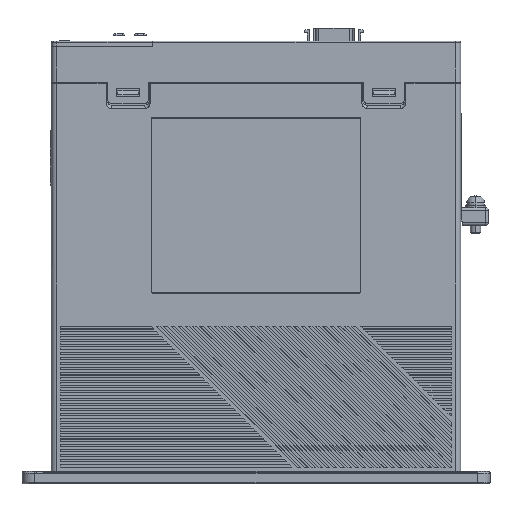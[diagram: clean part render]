
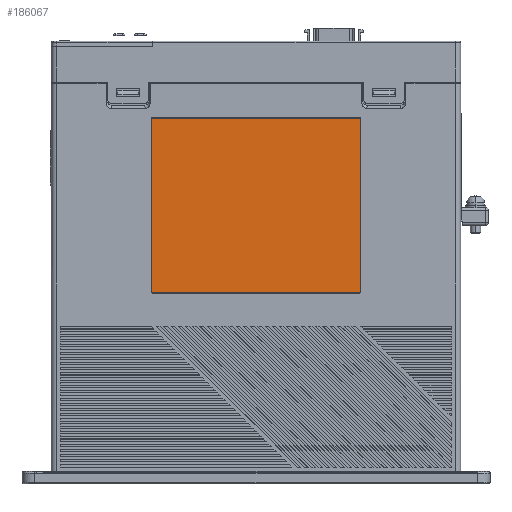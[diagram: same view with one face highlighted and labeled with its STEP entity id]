
A CAD part, top view. The second image highlights one B-rep face of the part: STEP entity #186067.
In plain terms, the highlighted planar face has unit normal (0, 0, 1).
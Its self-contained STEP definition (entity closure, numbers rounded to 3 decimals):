
#175955=CARTESIAN_POINT('',(-40.5,75.1,24.65));
#175956=DIRECTION('',(0.,0.,-1.));
#175957=DIRECTION('',(0.,-1.,0.));
#175958=AXIS2_PLACEMENT_3D('',#175955,#175956,#175957);
#175960=DIRECTION('',(0.,1.,0.));
#175961=VECTOR('',#175960,67.4);
#175962=CARTESIAN_POINT('',(-41.,75.1,24.65));
#175963=LINE('',#175962,#175961);
#175964=CARTESIAN_POINT('',(-40.5,142.5,24.65));
#175965=DIRECTION('',(0.,0.,-1.));
#175966=DIRECTION('',(-1.,0.,0.));
#175967=AXIS2_PLACEMENT_3D('',#175964,#175965,#175966);
#175969=DIRECTION('',(1.,0.,0.));
#175970=VECTOR('',#175969,81.);
#175971=CARTESIAN_POINT('',(-40.5,143.,24.65));
#175972=LINE('',#175971,#175970);
#175973=CARTESIAN_POINT('',(40.5,142.5,24.65));
#175974=DIRECTION('',(0.,0.,-1.));
#175975=DIRECTION('',(0.,1.,0.));
#175976=AXIS2_PLACEMENT_3D('',#175973,#175974,#175975);
#175978=DIRECTION('',(0.,-1.,0.));
#175979=VECTOR('',#175978,67.4);
#175980=CARTESIAN_POINT('',(41.,142.5,24.65));
#175981=LINE('',#175980,#175979);
#175982=CARTESIAN_POINT('',(40.5,75.1,24.65));
#175983=DIRECTION('',(0.,0.,-1.));
#175984=DIRECTION('',(1.,0.,0.));
#175985=AXIS2_PLACEMENT_3D('',#175982,#175983,#175984);
#175987=DIRECTION('',(-1.,0.,0.));
#175988=VECTOR('',#175987,81.);
#175989=CARTESIAN_POINT('',(40.5,74.6,24.65));
#175990=LINE('',#175989,#175988);
#181356=CARTESIAN_POINT('',(-41.,75.1,24.65));
#181357=CARTESIAN_POINT('',(-41.,142.5,24.65));
#181358=VERTEX_POINT('',#181356);
#181359=VERTEX_POINT('',#181357);
#181360=CARTESIAN_POINT('',(-40.5,74.6,24.65));
#181361=VERTEX_POINT('',#181360);
#181362=CARTESIAN_POINT('',(-40.5,143.,24.65));
#181363=VERTEX_POINT('',#181362);
#181364=CARTESIAN_POINT('',(40.5,143.,24.65));
#181365=VERTEX_POINT('',#181364);
#181366=CARTESIAN_POINT('',(41.,142.5,24.65));
#181367=VERTEX_POINT('',#181366);
#181368=CARTESIAN_POINT('',(41.,75.1,24.65));
#181369=VERTEX_POINT('',#181368);
#181370=CARTESIAN_POINT('',(40.5,74.6,24.65));
#181371=VERTEX_POINT('',#181370);
#186044=CARTESIAN_POINT('',(0.,5.,24.65));
#186045=DIRECTION('',(0.,0.,1.));
#186046=DIRECTION('',(0.,1.,0.));
#186047=AXIS2_PLACEMENT_3D('',#186044,#186045,#186046);
#186048=PLANE('',#186047);
#186050=ORIENTED_EDGE('',*,*,#186049,.T.);
#186052=ORIENTED_EDGE('',*,*,#186051,.T.);
#186054=ORIENTED_EDGE('',*,*,#186053,.T.);
#186056=ORIENTED_EDGE('',*,*,#186055,.T.);
#186058=ORIENTED_EDGE('',*,*,#186057,.T.);
#186060=ORIENTED_EDGE('',*,*,#186059,.T.);
#186062=ORIENTED_EDGE('',*,*,#186061,.T.);
#186064=ORIENTED_EDGE('',*,*,#186063,.T.);
#186065=EDGE_LOOP('',(#186050,#186052,#186054,#186056,#186058,#186060,#186062,
#186064));
#186066=FACE_OUTER_BOUND('',#186065,.F.);
#175959=CIRCLE('',#175958,0.5);
#175968=CIRCLE('',#175967,0.5);
#175977=CIRCLE('',#175976,0.5);
#175986=CIRCLE('',#175985,0.5);
#186049=EDGE_CURVE('',#181361,#181358,#175959,.T.);
#186051=EDGE_CURVE('',#181358,#181359,#175963,.T.);
#186053=EDGE_CURVE('',#181359,#181363,#175968,.T.);
#186055=EDGE_CURVE('',#181363,#181365,#175972,.T.);
#186057=EDGE_CURVE('',#181365,#181367,#175977,.T.);
#186059=EDGE_CURVE('',#181367,#181369,#175981,.T.);
#186061=EDGE_CURVE('',#181369,#181371,#175986,.T.);
#186063=EDGE_CURVE('',#181371,#181361,#175990,.T.);
#186067=ADVANCED_FACE('',(#186066),#186048,.T.);
